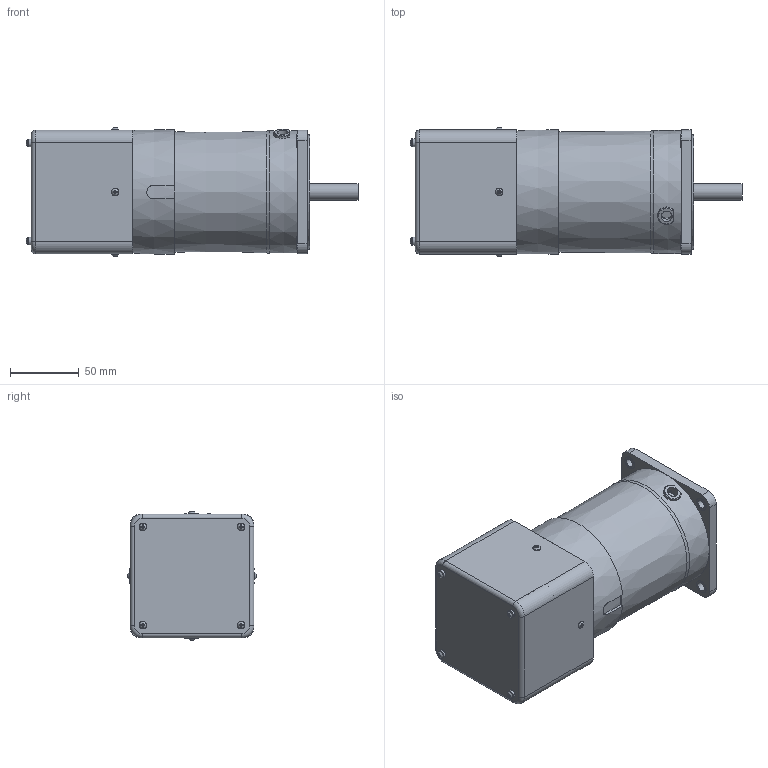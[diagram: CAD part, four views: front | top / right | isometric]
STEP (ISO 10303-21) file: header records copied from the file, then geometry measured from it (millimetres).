
FILE_DESCRIPTION((''),'2;1');
FILE_NAME('D:\STP파일\90W MOTOR\ES TYPE\S9I90S-ES.stp','2013-05-20T18:20:05',('leebh'),(''),'Autodesk Inventor 2011','Autodesk Inventor 2011','');
FILE_SCHEMA(('AUTOMOTIVE_DESIGN { 1 0 10303 214 1 1 1 1 }'));
Length unit declared in the file: millimetre
Products named in the file (1): 부품1
Bounding box: 241.25 x 93.89 x 93.89 mm (x, y, z)
Volume: 1129985.3 mm3; surface area: 113273.8 mm2
Topology: 1 solids, 7 shells, 291 faces, 695 edges, 448 vertices
Faces by surface type: plane 177, cylinder 72, torus 26, cone 8, bspline 8
Full cylindrical faces by diameter (mm): 3 x8, 4.5 x4, 5.6 x12, 6.5 x4, 8 x1, 9.5 x4, 10 x1, 12 x1, 40 x1, 83 x1, 86 x1
Entity records: 8783 total; most frequent: CARTESIAN_POINT 2277, DIRECTION 1250, ORIENTED_EDGE 1216, EDGE_CURVE 608, AXIS2_PLACEMENT_3D 462, VERTEX_POINT 433, EDGE_LOOP 409, VECTOR 326
